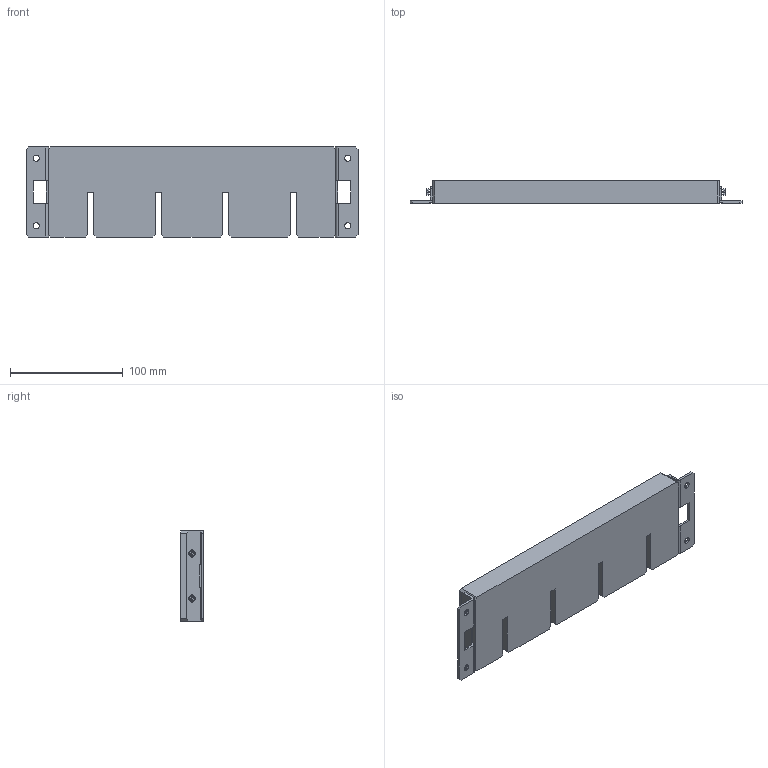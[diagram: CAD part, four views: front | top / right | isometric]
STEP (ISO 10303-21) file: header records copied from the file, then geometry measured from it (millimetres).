
FILE_DESCRIPTION(('CAx-IF Rec.Pracs.---Model Styling and Organization---1.2---2011-12-15','CAx-IF Rec.Pracs.---Geometric and Assembly Validation Properties---4.1---2014-06-16','CAx-IF Rec.Pracs.---PMI Polyline Presentation---2.0---2013-05-24'),'2;1');
FILE_NAME('R5M2SGBS5.stp','2021-05-05T12:53:33+03:00',(''),(''),'STEP Interface 4.4 by CT CoreTechnologie','3D_Evolution4.4 by CT CoreTechnologie','');
FILE_SCHEMA(('AUTOMOTIVE_DESIGN { 1 0 10303 214 1 1 1 1 }'));
Length unit declared in the file: millimetre
Products named in the file (4): R5M2SGBS5; RB.0841.00.00.0; RB.1498.00.00.0_-00 (-5); ST5,5x13 DIN 7981_thread
Assembly tree (7 placements, depth 2):
  R5M2SGBS5
    RB.0841.00.00.0  x2
    RB.1498.00.00.0_-00 (-5)
    ST5,5x13 DIN 7981_thread  x4
Bounding box: 295 x 20 x 80 mm (x, y, z)
Surface area: 70132.5 mm2 (no closed solid volume)
Topology: 0 solids, 7 shells, 186 faces, 500 edges, 328 vertices
Faces by surface type: plane 130, cylinder 32, bspline 24
Entity records: 3319 total; most frequent: CARTESIAN_POINT 600, ORIENTED_EDGE 518, DIRECTION 516, EDGE_CURVE 259, VECTOR 200, LINE 200, VERTEX_POINT 170, AXIS2_PLACEMENT_3D 158
